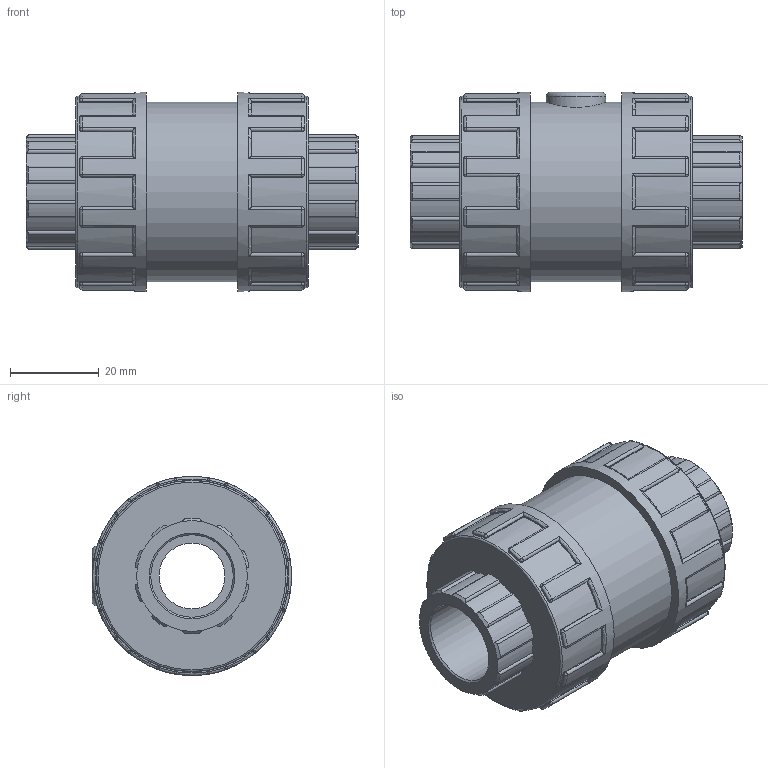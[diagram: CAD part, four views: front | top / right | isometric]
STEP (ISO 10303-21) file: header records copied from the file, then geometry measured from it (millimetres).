
FILE_DESCRIPTION(/* description */ ('PLASSON CHECK VALVE THR 1/2" PTFE COATED SPRING + EPDM O-RING'),/* implementation_level */ '2;1');
FILE_NAME(/* name */ 'C:\Dropbox\KIMPROJECTS-Inventor\99-16-3568-Processing\PVC Catalog 2017\110810 - 110610 110910 - 110010\11081005.ipt.stp',/* time_stamp */ '2017-12-07T16:08:03+02:00',/* author */ ('KIM'),/* organization */ (''),/* preprocessor_version */ 'ST-DEVELOPER v15.6',/* originating_system */ 'Autodesk Inventor 2015',/* authorisation */ '');
FILE_SCHEMA (('AUTOMOTIVE_DESIGN { 1 0 10303 214 3 1 1 }'));
Length unit declared in the file: millimetre
Products named in the file (1): 11081005
Bounding box: 75 x 45 x 45 mm (x, y, z)
Volume: 70932.4 mm3; surface area: 16644.4 mm2
Topology: 1 solids, 1 shells, 411 faces, 1021 edges, 618 vertices
Faces by surface type: cylinder 185, plane 105, torus 51, sphere 48, cone 22
Full cylindrical faces by diameter (mm): 13.5 x1, 14.905 x1, 18.631 x2, 40.5 x1, 43.2 x2, 45 x2
Entity records: 13378 total; most frequent: CARTESIAN_POINT 3599, DIRECTION 2180, ORIENTED_EDGE 1998, EDGE_CURVE 999, AXIS2_PLACEMENT_3D 906, VERTEX_POINT 611, CIRCLE 494, EDGE_LOOP 434
